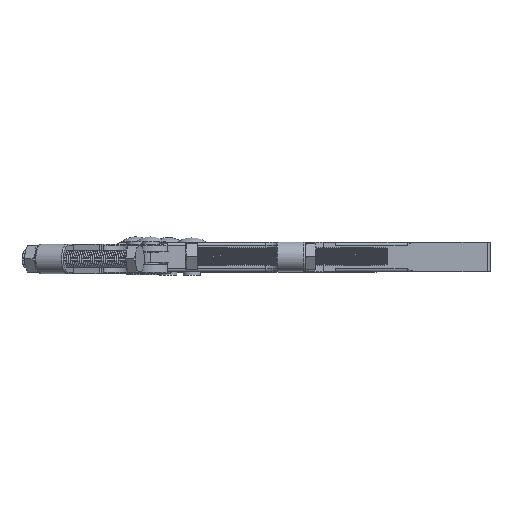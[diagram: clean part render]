
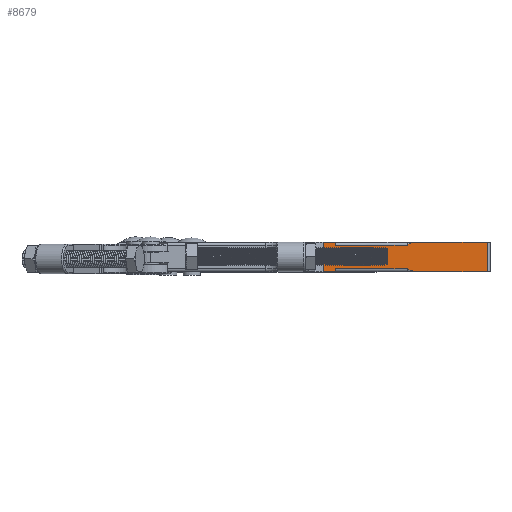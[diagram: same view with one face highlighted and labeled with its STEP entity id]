
A CAD part, left-side view. The second image highlights one B-rep face of the part: STEP entity #8679.
In plain terms, the highlighted planar face has unit normal (-1, 0, 0).
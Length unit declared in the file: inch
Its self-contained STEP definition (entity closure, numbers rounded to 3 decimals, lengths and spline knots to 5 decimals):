
#368=B_SPLINE_CURVE_WITH_KNOTS('',3,(#14519,#14520,#14521,#14522,#14523,
#14524,#14525,#14526,#14527,#14528,#14529,#14530,#14531,#14532),
 .UNSPECIFIED.,.F.,.F.,(4,2,2,2,2,2,4),(-0.33538,-0.33368,
-0.33102,-0.3183,-0.26058,-0.19419,
-0.12779),.UNSPECIFIED.);
#373=B_SPLINE_CURVE_WITH_KNOTS('',3,(#14617,#14618,#14619,#14620,#14621,
#14622,#14623,#14624,#14625,#14626,#14627,#14628,#14629,#14630),
 .UNSPECIFIED.,.F.,.F.,(4,2,2,2,2,2,4),(0.12779,0.19419,
0.26058,0.3183,0.33102,0.33368,
0.33538),.UNSPECIFIED.);
#557=LINE('',#14463,#1029);
#560=LINE('',#14477,#1032);
#563=LINE('',#14502,#1035);
#568=LINE('',#14568,#1040);
#581=LINE('',#14615,#1053);
#583=LINE('',#14641,#1055);
#594=LINE('',#14687,#1066);
#596=LINE('',#14693,#1068);
#654=LINE('',#15192,#1126);
#655=LINE('',#15193,#1127);
#1029=VECTOR('',#11004,1.48085);
#1032=VECTOR('',#11017,1.50989);
#1035=VECTOR('',#11028,1.48085);
#1040=VECTOR('',#11045,1.50989);
#1053=VECTOR('',#11098,0.625);
#1055=VECTOR('',#11112,0.26584);
#1066=VECTOR('',#11151,0.06289);
#1068=VECTOR('',#11157,0.06311);
#1126=VECTOR('',#11507,0.26584);
#1127=VECTOR('',#11508,0.625);
#1457=PLANE('',#9559);
#2147=FACE_OUTER_BOUND('',#2772,.T.);
#2772=EDGE_LOOP('',(#6995,#6996,#6997,#6998,#6999,#7000,#7001,#7002,#7003,
#7004,#7005,#7006));
#4124=VERTEX_POINT('',#14460);
#4125=VERTEX_POINT('',#14462);
#4130=VERTEX_POINT('',#14474);
#4131=VERTEX_POINT('',#14476);
#4134=VERTEX_POINT('',#14500);
#4135=VERTEX_POINT('',#14501);
#4142=VERTEX_POINT('',#14518);
#4144=VERTEX_POINT('',#14567);
#4153=VERTEX_POINT('',#14638);
#4154=VERTEX_POINT('',#14640);
#4177=VERTEX_POINT('',#14691);
#4261=VERTEX_POINT('',#15191);
#5050=EDGE_CURVE('',#4125,#4124,#557,.T.);
#5057=EDGE_CURVE('',#4130,#4131,#560,.T.);
#5063=EDGE_CURVE('',#4134,#4135,#563,.T.);
#5072=EDGE_CURVE('',#4142,#4134,#368,.T.);
#5075=EDGE_CURVE('',#4142,#4144,#568,.T.);
#5097=EDGE_CURVE('',#4135,#4125,#581,.T.);
#5098=EDGE_CURVE('',#4124,#4131,#373,.T.);
#5103=EDGE_CURVE('',#4154,#4153,#583,.T.);
#5127=EDGE_CURVE('',#4144,#4153,#594,.T.);
#5130=EDGE_CURVE('',#4177,#4130,#596,.T.);
#5281=EDGE_CURVE('',#4177,#4261,#654,.T.);
#5282=EDGE_CURVE('',#4154,#4261,#655,.T.);
#6995=ORIENTED_EDGE('',*,*,#5130,.F.);
#6996=ORIENTED_EDGE('',*,*,#5281,.T.);
#6997=ORIENTED_EDGE('',*,*,#5282,.F.);
#6998=ORIENTED_EDGE('',*,*,#5103,.T.);
#6999=ORIENTED_EDGE('',*,*,#5127,.F.);
#7000=ORIENTED_EDGE('',*,*,#5075,.F.);
#7001=ORIENTED_EDGE('',*,*,#5072,.T.);
#7002=ORIENTED_EDGE('',*,*,#5063,.T.);
#7003=ORIENTED_EDGE('',*,*,#5097,.T.);
#7004=ORIENTED_EDGE('',*,*,#5050,.T.);
#7005=ORIENTED_EDGE('',*,*,#5098,.T.);
#7006=ORIENTED_EDGE('',*,*,#5057,.F.);
#8679=ADVANCED_FACE('',(#2147),#1457,.T.);
#9559=AXIS2_PLACEMENT_3D('',#15190,#11505,#11506);
#11004=DIRECTION('',(0.,1.,0.));
#11017=DIRECTION('',(0.,-1.,0.));
#11028=DIRECTION('',(0.,-1.,0.));
#11045=DIRECTION('',(0.,1.,0.));
#11098=DIRECTION('',(0.,0.,1.));
#11112=DIRECTION('',(0.,-1.,0.));
#11151=DIRECTION('',(0.,0.,-1.));
#11157=DIRECTION('',(0.,0.,-1.));
#11505=DIRECTION('center_axis',(-1.,0.,0.));
#11506=DIRECTION('ref_axis',(0.,0.,1.));
#11507=DIRECTION('',(0.,1.,0.));
#11508=DIRECTION('',(0.,0.,1.));
#14460=CARTESIAN_POINT('',(17.63292,6.01331,7.20297));
#14462=CARTESIAN_POINT('',(17.63292,4.53245,7.20297));
#14463=CARTESIAN_POINT('',(17.63292,7.31247,7.20297));
#14474=CARTESIAN_POINT('',(17.63292,7.73098,7.13997));
#14476=CARTESIAN_POINT('',(17.63292,6.22109,7.13997));
#14477=CARTESIAN_POINT('',(17.63292,6.80042,7.13997));
#14500=CARTESIAN_POINT('',(17.63292,6.01331,6.57797));
#14501=CARTESIAN_POINT('',(17.63292,4.53245,6.57797));
#14502=CARTESIAN_POINT('',(17.63292,7.31247,6.57797));
#14518=CARTESIAN_POINT('',(17.63292,6.22109,6.64097));
#14519=CARTESIAN_POINT('Ctrl Pts',(17.63292,6.22109,6.64097));
#14520=CARTESIAN_POINT('Ctrl Pts',(17.63292,6.22109,6.64041));
#14521=CARTESIAN_POINT('Ctrl Pts',(17.63292,6.2209,6.63975));
#14522=CARTESIAN_POINT('Ctrl Pts',(17.63292,6.22024,6.63846));
#14523=CARTESIAN_POINT('Ctrl Pts',(17.63292,6.21952,6.63767));
#14524=CARTESIAN_POINT('Ctrl Pts',(17.63292,6.21576,6.63419));
#14525=CARTESIAN_POINT('Ctrl Pts',(17.63292,6.2112,6.63194));
#14526=CARTESIAN_POINT('Ctrl Pts',(17.63292,6.19019,6.62145));
#14527=CARTESIAN_POINT('Ctrl Pts',(17.63292,6.16863,6.6132));
#14528=CARTESIAN_POINT('Ctrl Pts',(17.63292,6.1297,6.59919));
#14529=CARTESIAN_POINT('Ctrl Pts',(17.63292,6.1065,6.59186));
#14530=CARTESIAN_POINT('Ctrl Pts',(17.63292,6.05937,6.58122));
#14531=CARTESIAN_POINT('Ctrl Pts',(17.63292,6.03544,6.57797));
#14532=CARTESIAN_POINT('Ctrl Pts',(17.63292,6.01331,6.57797));
#14567=CARTESIAN_POINT('',(17.63292,7.73098,6.64097));
#14568=CARTESIAN_POINT('',(17.63292,6.80042,6.64097));
#14615=CARTESIAN_POINT('',(17.63292,4.53245,6.89047));
#14617=CARTESIAN_POINT('Ctrl Pts',(17.63292,6.01331,7.20297));
#14618=CARTESIAN_POINT('Ctrl Pts',(17.63292,6.03544,7.20297));
#14619=CARTESIAN_POINT('Ctrl Pts',(17.63292,6.05937,7.19972));
#14620=CARTESIAN_POINT('Ctrl Pts',(17.63292,6.1065,7.18908));
#14621=CARTESIAN_POINT('Ctrl Pts',(17.63292,6.1297,7.18175));
#14622=CARTESIAN_POINT('Ctrl Pts',(17.63292,6.16863,7.16774));
#14623=CARTESIAN_POINT('Ctrl Pts',(17.63292,6.19019,7.15949));
#14624=CARTESIAN_POINT('Ctrl Pts',(17.63292,6.2112,7.149));
#14625=CARTESIAN_POINT('Ctrl Pts',(17.63292,6.21576,7.14675));
#14626=CARTESIAN_POINT('Ctrl Pts',(17.63292,6.21952,7.14327));
#14627=CARTESIAN_POINT('Ctrl Pts',(17.63292,6.22024,7.14248));
#14628=CARTESIAN_POINT('Ctrl Pts',(17.63292,6.2209,7.14119));
#14629=CARTESIAN_POINT('Ctrl Pts',(17.63292,6.22109,7.14053));
#14630=CARTESIAN_POINT('Ctrl Pts',(17.63292,6.22109,7.13997));
#14638=CARTESIAN_POINT('',(17.63292,7.73098,6.57808));
#14640=CARTESIAN_POINT('',(17.63292,7.99682,6.57808));
#14641=CARTESIAN_POINT('',(17.63292,7.52807,6.57808));
#14687=CARTESIAN_POINT('',(17.63292,7.73098,6.89058));
#14691=CARTESIAN_POINT('',(17.63292,7.73098,7.20308));
#14693=CARTESIAN_POINT('',(17.63292,7.73098,6.89058));
#15190=CARTESIAN_POINT('Origin',(17.63292,7.52807,6.89058));
#15191=CARTESIAN_POINT('',(17.63292,7.99682,7.20308));
#15192=CARTESIAN_POINT('',(17.63292,7.52807,7.20308));
#15193=CARTESIAN_POINT('',(17.63292,7.99682,6.89058));
